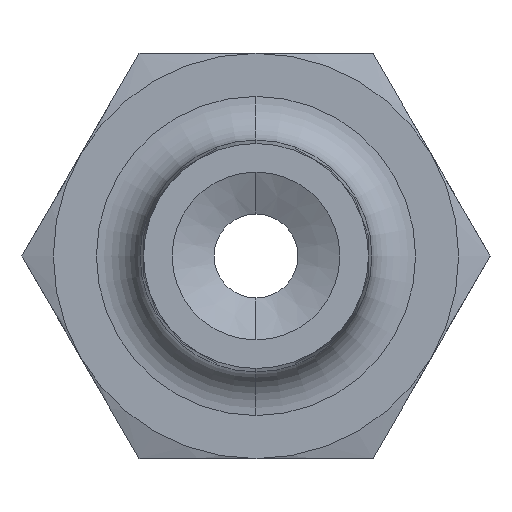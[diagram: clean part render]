
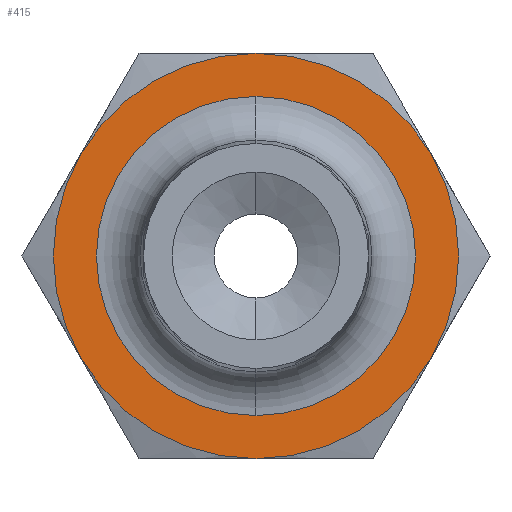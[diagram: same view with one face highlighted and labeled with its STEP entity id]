
A CAD part, left-side view. The second image highlights one B-rep face of the part: STEP entity #415.
In plain terms, the highlighted planar face has unit normal (-1, 0, 0).
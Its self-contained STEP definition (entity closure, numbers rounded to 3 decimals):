
#47 = EDGE_CURVE ( 'NONE', #48, #49, #674, .T. ) ;
#48 = VERTEX_POINT ( 'NONE', #665 ) ;
#49 = VERTEX_POINT ( 'NONE', #664 ) ;
#187 = VERTEX_POINT ( 'NONE', #1092 ) ;
#192 = VERTEX_POINT ( 'NONE', #1132 ) ;
#205 = VERTEX_POINT ( 'NONE', #1035 ) ;
#216 = ORIENTED_EDGE ( 'NONE', *, *, #217, .F. ) ;
#217 = EDGE_CURVE ( 'NONE', #205, #267, #1074, .T. ) ;
#218 = ORIENTED_EDGE ( 'NONE', *, *, #238, .T. ) ;
#238 = EDGE_CURVE ( 'NONE', #205, #192, #1010, .T. ) ;
#239 = ORIENTED_EDGE ( 'NONE', *, *, #240, .F. ) ;
#240 = EDGE_CURVE ( 'NONE', #340, #192, #1006, .T. ) ;
#267 = VERTEX_POINT ( 'NONE', #1363 ) ;
#340 = VERTEX_POINT ( 'NONE', #1320 ) ;
#413 = EDGE_LOOP ( 'NONE', ( #414, #588, #516, #216, #218, #239 ) ) ;
#414 = ORIENTED_EDGE ( 'NONE', *, *, #425, .F. ) ;
#415 = ADVANCED_FACE ( 'NONE', ( #1473, #1467 ), #1466, .F. ) ;
#425 = EDGE_CURVE ( 'NONE', #611, #340, #1524, .T. ) ;
#449 = EDGE_CURVE ( 'NONE', #267, #187, #1410, .T. ) ;
#516 = ORIENTED_EDGE ( 'NONE', *, *, #449, .F. ) ;
#578 = EDGE_CURVE ( 'NONE', #187, #611, #1698, .T. ) ;
#588 = ORIENTED_EDGE ( 'NONE', *, *, #578, .F. ) ;
#611 = VERTEX_POINT ( 'NONE', #1861 ) ;
#613 = EDGE_LOOP ( 'NONE', ( #614, #616 ) ) ;
#614 = ORIENTED_EDGE ( 'NONE', *, *, #615, .T. ) ;
#615 = EDGE_CURVE ( 'NONE', #49, #48, #1878, .T. ) ;
#616 = ORIENTED_EDGE ( 'NONE', *, *, #47, .T. ) ;
#664 = CARTESIAN_POINT ( 'NONE',  ( 0., 0., -4.375 ) ) ;
#665 = CARTESIAN_POINT ( 'NONE',  ( 0., 0., 4.375 ) ) ;
#666 = DIRECTION ( 'NONE',  ( 0., 0., -1. ) ) ;
#667 = DIRECTION ( 'NONE',  ( 1., 0., 0. ) ) ;
#668 = CARTESIAN_POINT ( 'NONE',  ( 0., 0., 0. ) ) ;
#669 = AXIS2_PLACEMENT_3D ( 'NONE', #668, #667, #666 ) ;
#674 = CIRCLE ( 'NONE', #669, 4.375 ) ;
#1003 = DIRECTION ( 'NONE',  ( 0., 0., -1. ) ) ;
#1004 = DIRECTION ( 'NONE',  ( 1., 0., 0. ) ) ;
#1005 = AXIS2_PLACEMENT_3D ( 'NONE', #1011, #1004, #1003 ) ;
#1006 = CIRCLE ( 'NONE', #1005, 5.555 ) ;
#1007 = DIRECTION ( 'NONE',  ( 0., 0., 1. ) ) ;
#1008 = DIRECTION ( 'NONE',  ( -1., 0., 0. ) ) ;
#1009 = AXIS2_PLACEMENT_3D ( 'NONE', #1158, #1008, #1007 ) ;
#1010 = CIRCLE ( 'NONE', #1009, 5.555 ) ;
#1011 = CARTESIAN_POINT ( 'NONE',  ( 0., 0., 0. ) ) ;
#1035 = CARTESIAN_POINT ( 'NONE',  ( 0., 0., 5.555 ) ) ;
#1070 = DIRECTION ( 'NONE',  ( 0., 0., -1. ) ) ;
#1071 = DIRECTION ( 'NONE',  ( 1., 0., 0. ) ) ;
#1072 = CARTESIAN_POINT ( 'NONE',  ( 0., 0., 0. ) ) ;
#1073 = AXIS2_PLACEMENT_3D ( 'NONE', #1072, #1071, #1070 ) ;
#1074 = CIRCLE ( 'NONE', #1073, 5.555 ) ;
#1092 = CARTESIAN_POINT ( 'NONE',  ( 0., -4.811, -2.777 ) ) ;
#1132 = CARTESIAN_POINT ( 'NONE',  ( 0., 4.811, 2.777 ) ) ;
#1158 = CARTESIAN_POINT ( 'NONE',  ( 0., 0., 0. ) ) ;
#1320 = CARTESIAN_POINT ( 'NONE',  ( 0., 4.811, -2.777 ) ) ;
#1363 = CARTESIAN_POINT ( 'NONE',  ( 0., -4.811, 2.777 ) ) ;
#1406 = DIRECTION ( 'NONE',  ( 0., 0., -1. ) ) ;
#1407 = DIRECTION ( 'NONE',  ( 1., 0., 0. ) ) ;
#1408 = CARTESIAN_POINT ( 'NONE',  ( 0., 0., 0. ) ) ;
#1409 = AXIS2_PLACEMENT_3D ( 'NONE', #1408, #1407, #1406 ) ;
#1410 = CIRCLE ( 'NONE', #1409, 5.555 ) ;
#1462 = DIRECTION ( 'NONE',  ( 1., 0., 0. ) ) ;
#1463 = CARTESIAN_POINT ( 'NONE',  ( 0., 6.414, 0. ) ) ;
#1464 = AXIS2_PLACEMENT_3D ( 'NONE', #1463, #1462, #1484 ) ;
#1466 = PLANE ( 'NONE',  #1464 ) ;
#1467 = FACE_OUTER_BOUND ( 'NONE', #413, .T. ) ;
#1473 = FACE_BOUND ( 'NONE', #613, .T. ) ;
#1484 = DIRECTION ( 'NONE',  ( 0., 0., -1. ) ) ;
#1514 = DIRECTION ( 'NONE',  ( 0., 0., -1. ) ) ;
#1515 = DIRECTION ( 'NONE',  ( 1., 0., 0. ) ) ;
#1516 = CARTESIAN_POINT ( 'NONE',  ( 0., 0., 0. ) ) ;
#1517 = AXIS2_PLACEMENT_3D ( 'NONE', #1516, #1515, #1514 ) ;
#1524 = CIRCLE ( 'NONE', #1517, 5.555 ) ;
#1695 = DIRECTION ( 'NONE',  ( 0., 0., -1. ) ) ;
#1696 = DIRECTION ( 'NONE',  ( 1., 0., 0. ) ) ;
#1697 = AXIS2_PLACEMENT_3D ( 'NONE', #1704, #1696, #1695 ) ;
#1698 = CIRCLE ( 'NONE', #1697, 5.555 ) ;
#1704 = CARTESIAN_POINT ( 'NONE',  ( 0., 0., 0. ) ) ;
#1861 = CARTESIAN_POINT ( 'NONE',  ( 0., 0., -5.555 ) ) ;
#1874 = DIRECTION ( 'NONE',  ( 0., 0., -1. ) ) ;
#1875 = DIRECTION ( 'NONE',  ( 1., 0., 0. ) ) ;
#1876 = CARTESIAN_POINT ( 'NONE',  ( 0., 0., 0. ) ) ;
#1877 = AXIS2_PLACEMENT_3D ( 'NONE', #1876, #1875, #1874 ) ;
#1878 = CIRCLE ( 'NONE', #1877, 4.375 ) ;
